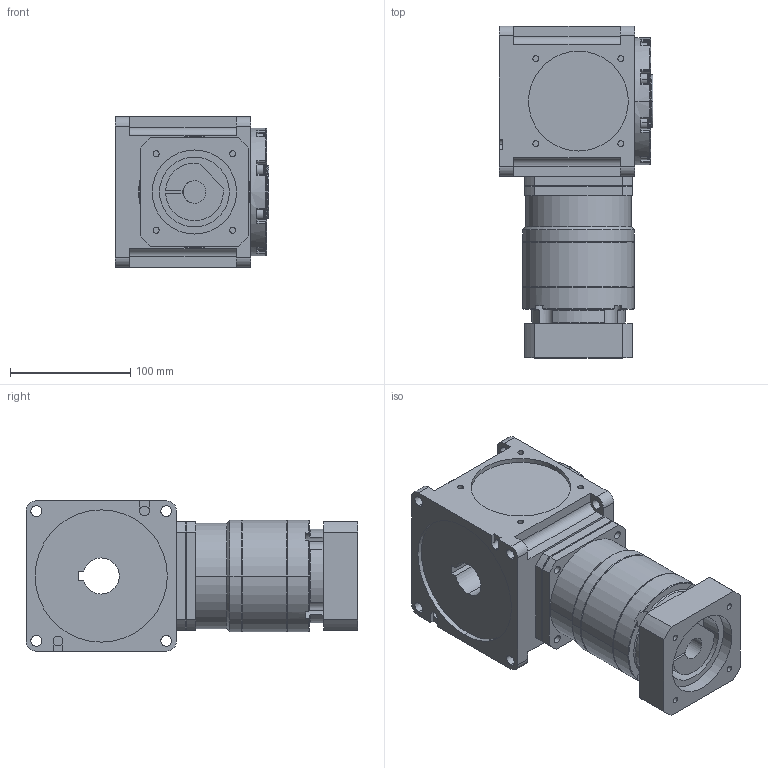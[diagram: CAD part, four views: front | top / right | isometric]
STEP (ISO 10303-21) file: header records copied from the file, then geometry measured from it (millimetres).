
FILE_DESCRIPTION (( 'STEP AP214' ), '1' );
FILE_NAME ('CCW125A-L3(24-200)-CR 19-70-90-M6.STEP', '2025-05-20T06:19:12', ( '微软用户' ), ( '微软中国' ), 'SwSTEP 2.0', 'SolidWorks 2024', '' );
FILE_SCHEMA (( 'AUTOMOTIVE_DESIGN' ));
Length unit declared in the file: millimetre
Products named in the file (3): VRB-090-L2-S2-P1 19-70-90-M6; CCW125A-002-CR箱体; CCW125A-L3(24-200)-CR 19-70-90-M6
Assembly tree (2 placements, depth 2):
  CCW125A-L3(24-200)-CR 19-70-90-M6
    CCW125A-002-CR箱体
    VRB-090-L2-S2-P1 19-70-90-M6
Bounding box: 128 x 276 x 125 mm (x, y, z)
Volume: 2617202.1 mm3; surface area: 203019.4 mm2
Topology: 2 solids, 2 shells, 510 faces, 1243 edges, 771 vertices
Faces by surface type: cylinder 208, plane 192, cone 49, torus 45, sphere 16
Entity records: 15138 total; most frequent: DIRECTION 2800, CARTESIAN_POINT 2694, ORIENTED_EDGE 2450, EDGE_CURVE 1225, AXIS2_PLACEMENT_3D 1103, VERTEX_POINT 771, LINE 594, VECTOR 594
